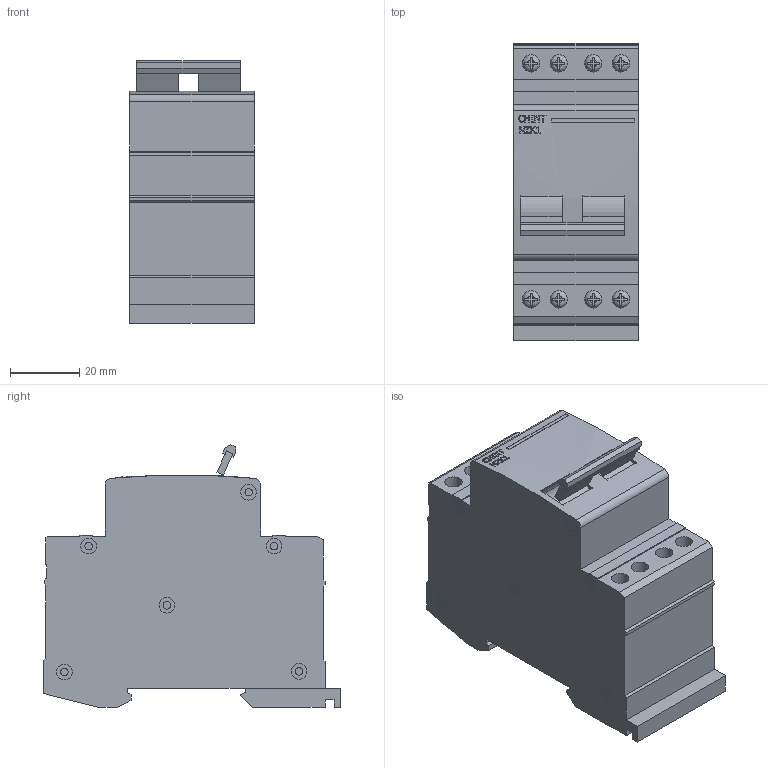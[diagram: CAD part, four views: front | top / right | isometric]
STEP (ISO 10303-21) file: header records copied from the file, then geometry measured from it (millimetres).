
FILE_DESCRIPTION(/* description */ (''),/* implementation_level */ '2;1');
FILE_NAME(/* name */ 'D:\CHINT\NZK1\Переключатель NZK1 2P 32A (CHINT).stp',/* time_stamp */ '2017-09-30T16:00:45+04:00',/* author */ ('RSagdiev'),/* organization */ (''),/* preprocessor_version */ 'ST-DEVELOPER v16.5',/* originating_system */ 'Autodesk Inventor 2017',/* authorisation */ '');
FILE_SCHEMA (('AUTOMOTIVE_DESIGN { 1 0 10303 214 3 1 1 }'));
Length unit declared in the file: millimetre
Products named in the file (1): \X2\041F043504400435043A043B044E0447043004420435043B044C
\X0\ NZK1 2P 32A (CHINT)
Bounding box: 36 x 86 x 76.01 mm (x, y, z)
Volume: 163150.9 mm3; surface area: 28289.2 mm2
Topology: 15 solids, 19 shells, 487 faces, 1179 edges, 782 vertices
Faces by surface type: plane 383, cylinder 79, bspline 25
Full cylindrical faces by diameter (mm): 2.111 x4, 2.171 x4, 2.212 x12, 4.524 x18, 5 x16, 13.756 x2
Entity records: 14529 total; most frequent: CARTESIAN_POINT 3095, DIRECTION 2367, ORIENTED_EDGE 2246, EDGE_CURVE 1123, AXIS2_PLACEMENT_3D 839, VERTEX_POINT 782, LINE 689, VECTOR 689
